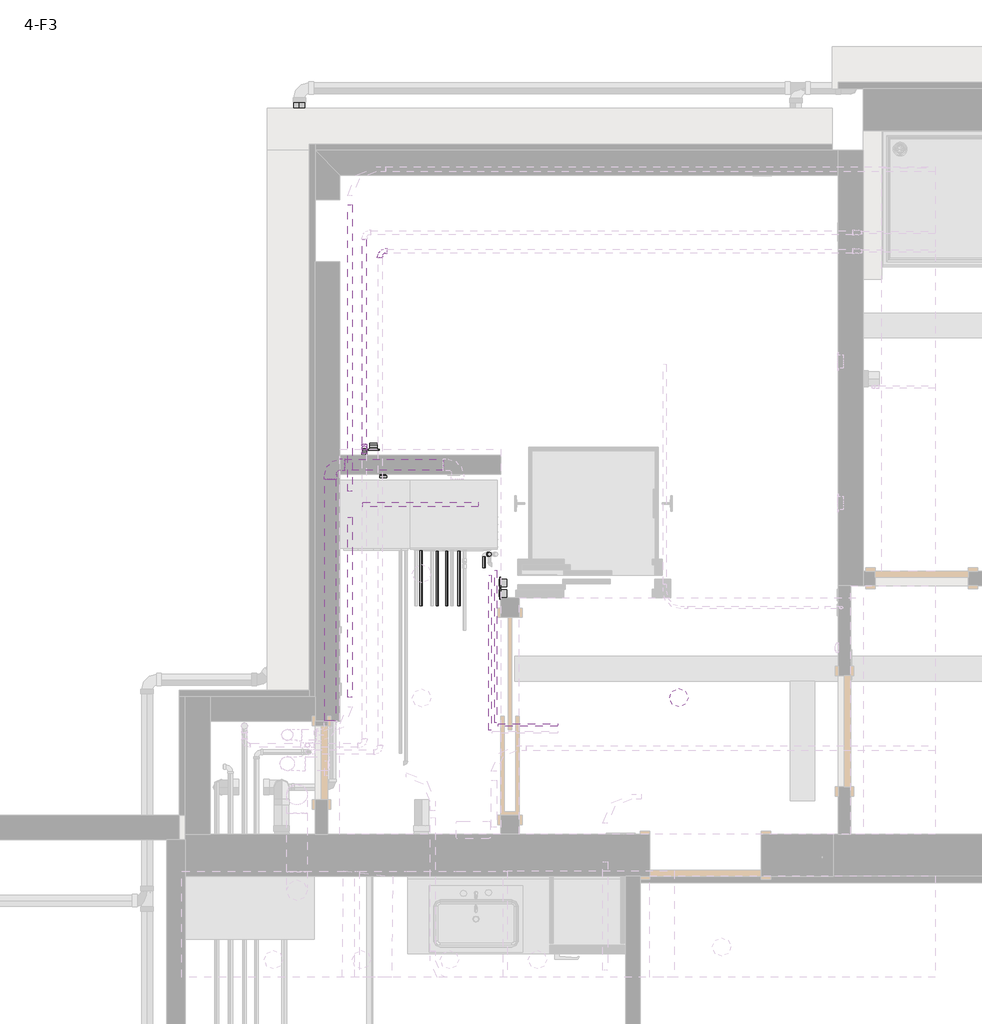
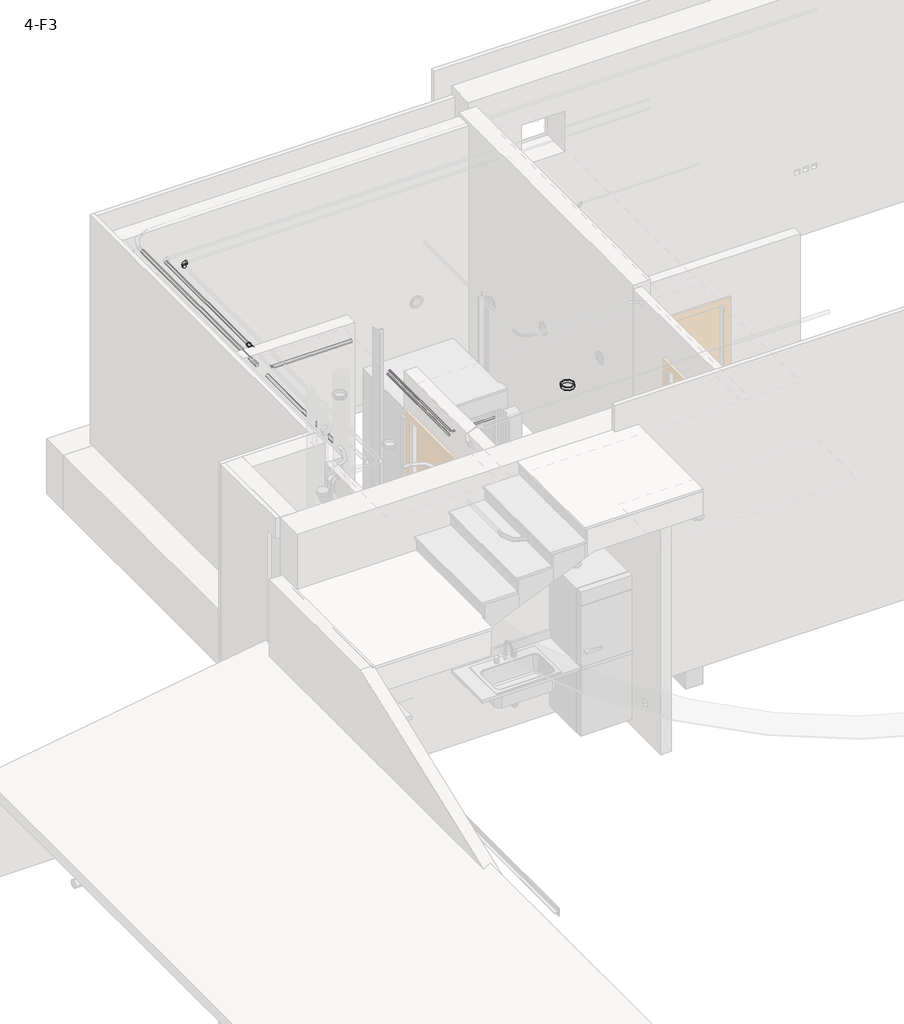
# One storey, part 8 of 11: 27 pipe segments, 22 pipe fittings, 3 cable carrier segments, 2 switching devices, 1 light fixture, 1 proxy.
"""IFC4 building model written with IfcOpenShell, lengths in millimetres."""

from ifc_helpers import new_model, si_unit, point, frame, frame_2d, origin, place, context, project, spatial, circle_curve, trimmed, segment, composite_curve, outline, extrude, transform, mapped, element, save
from components import wall_mounted_socket_ups_wall_mounted_socket_ups_4524048d, m_downlight_recessed_can_152mm_incandescent_120v_1ee42939, m_bend_pvc_sch_40_dwv_standard_a4b99d37, m_bend_pvc_sch_40_dwv_standard_738aab8b, m_bend_pvc_sch_40_dwv_standard_b153bf5a, m_elbow_welded_generic_standard_d2a14586, m_elbow_welded_generic_standard_c3fc6815, m_elbow_welded_generic_standard_820a065a, m_elbow_welded_generic_standard_7d9b37db, m_elbow_welded_generic_standard_7a51b9d3, m_reducer_pvc_sch_40_dwv_standard_054c0fc6, m_tee_reducing_sanitary_pvc_sch_40_dwv_standard_235fb988, switching_device_ab05ab5c

model = new_model("IFC4")

# Units and contexts
model_context = context("Model", 3, world=origin())
ifc_project = project(units=[si_unit("LENGTHUNIT", "METRE", prefix="MILLI")], contexts=[model_context])

# Site, building, storey
site = spatial("IfcSite", under=ifc_project)
building = spatial("IfcBuilding", under=site)
storey = spatial("IfcBuildingStorey", under=building, Name="4-F3", Elevation=9900.0)

# Proxy
placement = place(None, origin())
wall_mounted_socket_ups_wall_mounted_socket_ups_shape = wall_mounted_socket_ups_wall_mounted_socket_ups_4524048d(model_context)
element("IfcBuildingElementProxy", 1, Name="WALL MOUNTED SOCKET : WALL MOUNTED SOCKET", ObjectType="WALL MOUNTED SOCKET : WALL MOUNTED SOCKET", at=placement, inside=storey, context=model_context, shape_type="MappedRepresentation", body=[
    mapped(wall_mounted_socket_ups_wall_mounted_socket_ups_shape, transform((-4587.4765921, 6284.4560655, 10350.0), x_axis=(1.0, 0.0, 0.0), y_axis=(0.0, 0.0, 1.0), z_axis=(0.0, -1.0, 0.0))),
])

# Cable carrier segments
element("IfcCableCarrierSegment", 2, ObjectType="Low Current", at=placement, inside=storey, context=model_context, shape_type="SweptSolid", body=[
    extrude(outline(composite_curve([segment(trimmed(circle_curve(frame_2d((12880.825, -4777.4765921)), 19.175), [point((12880.825, -4758.3015921))], [point((12900.0, -4777.4765921))], False, "CARTESIAN"), True, "CONTINUOUS"), segment(trimmed(circle_curve(frame_2d((12880.825, -4777.4765921)), 19.175), [point((12900.0, -4777.4765921))], [point((12880.825, -4796.6515921))], False, "CARTESIAN"), True, "CONTINUOUS"), segment(trimmed(circle_curve(frame_2d((12880.825, -4777.4765921)), 19.175), [point((12880.825, -4796.6515921))], [point((12861.65, -4777.4765921))], False, "CARTESIAN"), True, "CONTINUOUS"), segment(trimmed(circle_curve(frame_2d((12880.825, -4777.4765921)), 19.175), [point((12861.65, -4777.4765921))], [point((12880.825, -4758.3015921))], False, "CARTESIAN"), True, "CONTINUOUS")], self_intersect=False)), frame((0.0, 5943.3903503, 0.0), z_axis=(0.0, 1.0, 0.0), x_axis=(0.0, 0.0, 1.0)), (0.0, 0.0, 1.0), 2316.9419496),
])
element("IfcCableCarrierSegment", 3, ObjectType="Low Current", at=placement, inside=storey, context=model_context, shape_type="SweptSolid", body=[
    extrude(outline(composite_curve([segment(trimmed(circle_curve(frame_2d((0.0, -19.175)), 19.175), [point((-19.175, -19.175))], [point((0.0, 0.0))], False, "CARTESIAN"), True, "CONTINUOUS"), segment(trimmed(circle_curve(frame_2d((0.0, -19.175)), 19.175), [point((0.0, 0.0))], [point((19.175, -19.175))], False, "CARTESIAN"), True, "CONTINUOUS"), segment(trimmed(circle_curve(frame_2d((0.0, -19.175)), 19.175), [point((19.175, -19.175))], [point((0.0, -38.35))], False, "CARTESIAN"), True, "CONTINUOUS"), segment(trimmed(circle_curve(frame_2d((0.0, -19.175)), 19.175), [point((0.0, -38.35))], [point((-19.175, -19.175))], False, "CARTESIAN"), True, "CONTINUOUS")], self_intersect=False)), frame((-3737.4771048, 5838.3903503, 12861.625), z_axis=(-0.9999999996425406, 0.0, 2.6737967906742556e-05), x_axis=(0.0, 1.0, 0.0)), (0.0, 0.0, 1.0), 935.0000003),
])
element("IfcCableCarrierSegment", 4, ObjectType="Low Current", at=placement, inside=storey, context=model_context, shape_type="SweptSolid", body=[
    extrude(outline(composite_curve([segment(trimmed(circle_curve(frame_2d((12880.825, -4777.4765921)), 19.175), [point((12880.825, -4758.3015921))], [point((12900.0, -4777.4765921))], False, "CARTESIAN"), True, "CONTINUOUS"), segment(trimmed(circle_curve(frame_2d((12880.825, -4777.4765921)), 19.175), [point((12900.0, -4777.4765921))], [point((12880.825, -4796.6515921))], False, "CARTESIAN"), True, "CONTINUOUS"), segment(trimmed(circle_curve(frame_2d((12880.825, -4777.4765921)), 19.175), [point((12880.825, -4796.6515921))], [point((12861.65, -4777.4765921))], False, "CARTESIAN"), True, "CONTINUOUS"), segment(trimmed(circle_curve(frame_2d((12880.825, -4777.4765921)), 19.175), [point((12861.65, -4777.4765921))], [point((12880.825, -4758.3015921))], False, "CARTESIAN"), True, "CONTINUOUS")], self_intersect=False)), frame((0.0, 4278.1822999, 0.0), z_axis=(0.0, 1.0, 0.0), x_axis=(0.0, 0.0, 1.0)), (0.0, 0.0, 1.0), 1455.2080504),
])

# Light fixture
m_downlight_recessed_can_152mm_incandescent_120v_shape = m_downlight_recessed_can_152mm_incandescent_120v_1ee42939(model_context)
element("IfcLightFixture", 5, ObjectType="M_Downlight - Recessed Can : 203mm Incandescent - 277V", at=placement, inside=storey, context=model_context, shape_type="MappedRepresentation", body=[
    mapped(m_downlight_recessed_can_152mm_incandescent_120v_shape, transform((-2117.4765921, 4275.4711943, 10185.4), x_axis=(1.0, 0.0, 0.0), y_axis=(0.0, 1.0, 0.0), z_axis=(0.0, 0.0, 1.0))),
])

# Pipe fittings
m_bend_pvc_sch_40_dwv_standard_shape = m_bend_pvc_sch_40_dwv_standard_a4b99d37(model_context)
element("IfcPipeFitting", 6, ObjectType="M_Bend - PVC - Sch 40 - DWV : Standard", at=placement, inside=storey, context=model_context, shape_type="MappedRepresentation", body=[
    mapped(m_bend_pvc_sch_40_dwv_standard_shape, transform((-4935.0, 6159.4560655, 11700.0), x_axis=(-1.0, 0.0, 0.0), y_axis=(0.0, -1.0, 0.0), z_axis=(0.0, 0.0, 1.0))),
])
m_bend_pvc_sch_40_dwv_standard_2_shape = m_bend_pvc_sch_40_dwv_standard_738aab8b(model_context)
element("IfcPipeFitting", 7, ObjectType="M_Bend - PVC - Sch 40 - DWV : Standard", at=placement, inside=storey, context=model_context, shape_type="MappedRepresentation", body=[
    mapped(m_bend_pvc_sch_40_dwv_standard_2_shape, transform((-4506.4958632, 6114.440242, 10350.0), x_axis=(1.0, 0.0, 0.0), y_axis=(0.0, -1.0, 0.0), z_axis=(0.0, 0.0, -1.0))),
])
element("IfcPipeFitting", 8, ObjectType="M_Bend - PVC - Sch 40 - DWV : Standard", at=placement, inside=storey, context=model_context, shape_type="MappedRepresentation", body=[
    mapped(m_bend_pvc_sch_40_dwv_standard_2_shape, transform((-4917.4765921, 6114.440242, 10350.0), x_axis=(-1.0, 0.0, 0.0), y_axis=(0.0, -1.0, 0.0), z_axis=(0.0, 0.0, 1.0))),
])
m_bend_pvc_sch_40_dwv_standard_3_shape = m_bend_pvc_sch_40_dwv_standard_b153bf5a(model_context)
element("IfcPipeFitting", 9, ObjectType="M_Bend - PVC - Sch 40 - DWV : Standard", at=placement, inside=storey, context=model_context, shape_type="MappedRepresentation", body=[
    mapped(m_bend_pvc_sch_40_dwv_standard_3_shape, transform((-4532.9770075, 7886.6620874, 12870.0), x_axis=(-1.0, 0.0, 0.0), y_axis=(0.0, -1.0, 0.0), z_axis=(0.0, 0.0, 1.0))),
])
element("IfcPipeFitting", 10, ObjectType="M_Bend - PVC - Sch 40 - DWV : Standard", at=placement, inside=storey, context=model_context, shape_type="MappedRepresentation", body=[
    mapped(m_bend_pvc_sch_40_dwv_standard_3_shape, transform((-4660.1213464, 6295.3100986, 11100.0), x_axis=(0.0, 0.0, -1.0), y_axis=(0.0, -1.0, 0.0), z_axis=(-1.0, 0.0, 0.0))),
])
m_elbow_welded_generic_standard_shape = m_elbow_welded_generic_standard_d2a14586(model_context)
element("IfcPipeFitting", 11, ObjectType="M_Elbow - Welded - Generic : Standard", at=placement, inside=storey, context=model_context, shape_type="MappedRepresentation", body=[
    mapped(m_elbow_welded_generic_standard_shape, transform((-3993.7873274, 5555.4611712, 9540.0000278), x_axis=(-1.0, 0.0, 0.0), y_axis=(0.0, -0.9999999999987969, -1.551235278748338e-06), z_axis=(0.0, -1.551235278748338e-06, 0.9999999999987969))),
])
element("IfcPipeFitting", 12, ObjectType="M_Elbow - Welded - Generic : Standard", at=placement, inside=storey, context=model_context, shape_type="MappedRepresentation", body=[
    mapped(m_elbow_welded_generic_standard_shape, transform((-3646.9732649, 5495.4611712, 9540.000026), x_axis=(1.0, 0.0, 0.0), y_axis=(0.0, 0.0, 1.0), z_axis=(0.0, -1.0, 0.0))),
])
element("IfcPipeFitting", 13, ObjectType="M_Elbow - Welded - Generic : Standard", at=placement, inside=storey, context=model_context, shape_type="MappedRepresentation", body=[
    mapped(m_elbow_welded_generic_standard_shape, transform((-3646.9732649, 5435.4613499, 11050.0000278), x_axis=(1.0, 0.0, 0.0), y_axis=(0.0, -1.195710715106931e-07, 0.9999999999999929), z_axis=(0.0, -0.9999999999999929, -1.195710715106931e-07))),
])
element("IfcPipeFitting", 14, ObjectType="M_Elbow - Welded - Generic : Standard", at=placement, inside=storey, context=model_context, shape_type="MappedRepresentation", body=[
    mapped(m_elbow_welded_generic_standard_shape, transform((-3646.9732649, 5555.4611712, 9540.0000278), x_axis=(1.0, 0.0, 0.0), y_axis=(0.0, 0.0, 1.0), z_axis=(0.0, -1.0, 0.0))),
])
element("IfcPipeFitting", 15, ObjectType="M_Elbow - Welded - Generic : Standard", at=placement, inside=storey, context=model_context, shape_type="MappedRepresentation", body=[
    mapped(m_elbow_welded_generic_standard_shape, transform((-3646.9732649, 5735.4611712, 9540.0000553), x_axis=(1.0, 0.0, 0.0), y_axis=(0.0, 0.0, 1.0), z_axis=(0.0, -1.0, 0.0))),
])
element("IfcPipeFitting", 16, ObjectType="M_Elbow - Welded - Generic : Standard", at=placement, inside=storey, context=model_context, shape_type="MappedRepresentation", body=[
    mapped(m_elbow_welded_generic_standard_shape, transform((-3646.9732649, 5675.4611712, 9540.0000233), x_axis=(1.0, 0.0, 0.0), y_axis=(0.0, 0.0, 1.0), z_axis=(0.0, -1.0, 0.0))),
])
element("IfcPipeFitting", 17, ObjectType="M_Elbow - Welded - Generic : Standard", at=placement, inside=storey, context=model_context, shape_type="MappedRepresentation", body=[
    mapped(m_elbow_welded_generic_standard_shape, transform((-3646.9732649, 5615.4611712, 9540.0000247), x_axis=(1.0, 0.0, 0.0), y_axis=(0.0, 0.0, 1.0), z_axis=(0.0, -1.0, 0.0))),
])
element("IfcPipeFitting", 18, ObjectType="M_Elbow - Welded - Generic : Standard", at=placement, inside=storey, context=model_context, shape_type="MappedRepresentation", body=[
    mapped(m_elbow_welded_generic_standard_shape, transform((-4366.9732649, 5735.4611712, 9540.0000553), x_axis=(-1.0, 0.0, 0.0), y_axis=(0.0, -0.9999999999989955, -1.4174412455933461e-06), z_axis=(0.0, -1.4174412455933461e-06, 0.9999999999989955))),
])
m_elbow_welded_generic_standard_2_shape = m_elbow_welded_generic_standard_c3fc6815(model_context)
element("IfcPipeFitting", 19, ObjectType="M_Elbow - Welded - Generic : Standard", at=placement, inside=storey, context=model_context, shape_type="MappedRepresentation", body=[
    mapped(m_elbow_welded_generic_standard_2_shape, transform((-4070.8446087, 5615.4611712, 9500.000112), x_axis=(-1.0, 0.0, 0.0), y_axis=(0.0, -0.9999999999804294, -6.256292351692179e-06), z_axis=(0.0, -6.256292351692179e-06, 0.9999999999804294))),
])
m_elbow_welded_generic_standard_3_shape = m_elbow_welded_generic_standard_820a065a(model_context)
element("IfcPipeFitting", 20, ObjectType="M_Elbow - Welded - Generic : Standard", at=placement, inside=storey, context=model_context, shape_type="MappedRepresentation", body=[
    mapped(m_elbow_welded_generic_standard_3_shape, transform((-4324.0305462, 5865.461819, 9499.9997852), x_axis=(0.0, -0.9999999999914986, -4.123465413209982e-06), y_axis=(0.0, -4.123465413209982e-06, 0.9999999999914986), z_axis=(-1.0, 0.0, 0.0))),
])
m_elbow_welded_generic_standard_4_shape = m_elbow_welded_generic_standard_7d9b37db(model_context)
element("IfcPipeFitting", 21, ObjectType="M_Elbow - Welded - Generic : Standard", at=placement, inside=storey, context=model_context, shape_type="MappedRepresentation", body=[
    mapped(m_elbow_welded_generic_standard_4_shape, transform((-4324.0305462, 5825.4616042, 9540.0), x_axis=(0.0, -0.7071067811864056, 0.7071067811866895), y_axis=(0.0, -0.7071067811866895, -0.7071067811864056), z_axis=(1.0, 0.0, 0.0))),
])
element("IfcPipeFitting", 22, ObjectType="M_Elbow - Welded - Generic : Standard", at=placement, inside=storey, context=model_context, shape_type="MappedRepresentation", body=[
    mapped(m_elbow_welded_generic_standard_4_shape, transform((-4200.8446087, 5735.4611712, 9540.0), x_axis=(0.0, -0.7071067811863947, 0.7071067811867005), y_axis=(0.0, -0.7071067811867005, -0.7071067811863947), z_axis=(1.0, 0.0, 0.0))),
])
element("IfcPipeFitting", 23, ObjectType="M_Elbow - Welded - Generic : Standard", at=placement, inside=storey, context=model_context, shape_type="MappedRepresentation", body=[
    mapped(m_elbow_welded_generic_standard_4_shape, transform((-4070.8446087, 5675.4611712, 9540.0), x_axis=(0.0, -0.7071067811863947, 0.7071067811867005), y_axis=(0.0, -0.7071067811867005, -0.7071067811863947), z_axis=(1.0, 0.0, 0.0))),
])
m_elbow_welded_generic_standard_5_shape = m_elbow_welded_generic_standard_7a51b9d3(model_context)
element("IfcPipeFitting", 24, ObjectType="M_Elbow - Welded - Generic : Standard", at=placement, inside=storey, context=model_context, shape_type="MappedRepresentation", body=[
    mapped(m_elbow_welded_generic_standard_5_shape, transform((-4200.8446087, 5775.4616848, 9499.9994864), x_axis=(0.0, -0.9999999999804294, -6.25629233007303e-06), y_axis=(0.0, -6.25629233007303e-06, 0.9999999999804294), z_axis=(-1.0, 0.0, 0.0))),
])
element("IfcPipeFitting", 25, ObjectType="M_Elbow - Welded - Generic : Standard", at=placement, inside=storey, context=model_context, shape_type="MappedRepresentation", body=[
    mapped(m_elbow_welded_generic_standard_5_shape, transform((-4070.8446087, 5715.4616848, 9499.9994864), x_axis=(0.0, -0.9999999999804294, -6.25629233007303e-06), y_axis=(0.0, -6.25629233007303e-06, 0.9999999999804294), z_axis=(-1.0, 0.0, 0.0))),
])
m_reducer_pvc_sch_40_dwv_standard_shape = m_reducer_pvc_sch_40_dwv_standard_054c0fc6(model_context)
element("IfcPipeFitting", 26, ObjectType="M_Reducer - PVC - Sch 40 - DWV : Standard", at=placement, inside=storey, context=model_context, shape_type="MappedRepresentation", body=[
    mapped(m_reducer_pvc_sch_40_dwv_standard_shape, transform((-4366.9732649, 5717.5184524, 9540.0000299), x_axis=(0.0, -0.9999999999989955, -1.4174412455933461e-06), y_axis=(1.0, 0.0, 0.0), z_axis=(0.0, -1.4174412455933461e-06, 0.9999999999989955))),
])
m_tee_reducing_sanitary_pvc_sch_40_dwv_standard_shape = m_tee_reducing_sanitary_pvc_sch_40_dwv_standard_235fb988(model_context)
element("IfcPipeFitting", 27, ObjectType="M_Tee Reducing Sanitary - PVC - Sch 40 - DWV : Standard", at=placement, inside=storey, context=model_context, shape_type="MappedRepresentation", body=[
    mapped(m_tee_reducing_sanitary_pvc_sch_40_dwv_standard_shape, transform((-4660.1213464, 6295.3100986, 12870.0), x_axis=(0.0, 1.0, 0.0), y_axis=(0.0, 0.0, 1.0), z_axis=(1.0, 0.0, 0.0))),
])

# Pipe segments
element("IfcPipeSegment", 28, ObjectType="PVC - DWV", at=placement, inside=storey, context=model_context, shape_type="SweptSolid", body=[
    extrude(outline(composite_curve([segment(trimmed(circle_curve(frame_2d((5675.4611712, 9540.0000233)), 9.525), [point((5684.9861712, 9540.0000233))], [point((5675.4611712, 9530.4750233))], False, "CARTESIAN"), True, "CONTINUOUS"), segment(trimmed(circle_curve(frame_2d((5675.4611712, 9540.0000233)), 9.525), [point((5675.4611712, 9530.4750233))], [point((5665.9361712, 9540.0000233))], False, "CARTESIAN"), True, "CONTINUOUS"), segment(trimmed(circle_curve(frame_2d((5675.4611712, 9540.0000233)), 9.525), [point((5665.9361712, 9540.0000233))], [point((5675.4611712, 9549.5250233))], False, "CARTESIAN"), True, "CONTINUOUS"), segment(trimmed(circle_curve(frame_2d((5675.4611712, 9540.0000233)), 9.525), [point((5675.4611712, 9549.5250233))], [point((5684.9861712, 9540.0000233))], False, "CARTESIAN"), True, "CONTINUOUS")], self_intersect=False)), frame((-4225.8446087, 0.0, 0.0), z_axis=(1.0, 0.0, 0.0), x_axis=(0.0, 1.0, 0.0)), (0.0, 0.0, 1.0), 560.928625),
])
element("IfcPipeSegment", 29, ObjectType="PVC - DWV", at=placement, inside=storey, context=model_context, shape_type="SweptSolid", body=[
    extrude(outline(composite_curve([segment(trimmed(circle_curve(frame_2d((5615.4611712, 9540.0000247)), 9.525), [point((5624.9861712, 9540.0000247))], [point((5615.4611712, 9530.4750247))], False, "CARTESIAN"), True, "CONTINUOUS"), segment(trimmed(circle_curve(frame_2d((5615.4611712, 9540.0000247)), 9.525), [point((5615.4611712, 9530.4750247))], [point((5605.9361712, 9540.0000247))], False, "CARTESIAN"), True, "CONTINUOUS"), segment(trimmed(circle_curve(frame_2d((5615.4611712, 9540.0000247)), 9.525), [point((5605.9361712, 9540.0000247))], [point((5615.4611712, 9549.5250247))], False, "CARTESIAN"), True, "CONTINUOUS"), segment(trimmed(circle_curve(frame_2d((5615.4611712, 9540.0000247)), 9.525), [point((5615.4611712, 9549.5250247))], [point((5624.9861712, 9540.0000247))], False, "CARTESIAN"), True, "CONTINUOUS")], self_intersect=False)), frame((-4095.8446087, 0.0, 0.0), z_axis=(1.0, 0.0, 0.0), x_axis=(0.0, 1.0, 0.0)), (0.0, 0.0, 1.0), 430.928625),
])
element("IfcPipeSegment", 30, ObjectType="PVC - DWV", at=placement, inside=storey, context=model_context, shape_type="SweptSolid", body=[
    extrude(outline(composite_curve([segment(trimmed(circle_curve(frame_2d((5555.4611712, 9540.0000278)), 9.525), [point((5564.9861712, 9540.0000278))], [point((5555.4611712, 9530.4750278))], False, "CARTESIAN"), True, "CONTINUOUS"), segment(trimmed(circle_curve(frame_2d((5555.4611712, 9540.0000278)), 9.525), [point((5555.4611712, 9530.4750278))], [point((5545.9361712, 9540.0000278))], False, "CARTESIAN"), True, "CONTINUOUS"), segment(trimmed(circle_curve(frame_2d((5555.4611712, 9540.0000278)), 9.525), [point((5545.9361712, 9540.0000278))], [point((5555.4611712, 9549.5250278))], False, "CARTESIAN"), True, "CONTINUOUS"), segment(trimmed(circle_curve(frame_2d((5555.4611712, 9540.0000278)), 9.525), [point((5555.4611712, 9549.5250278))], [point((5564.9861712, 9540.0000278))], False, "CARTESIAN"), True, "CONTINUOUS")], self_intersect=False)), frame((-3975.8446087, 0.0, 0.0), z_axis=(1.0, 0.0, 0.0), x_axis=(0.0, 1.0, 0.0)), (0.0, 0.0, 1.0), 310.928625),
])
element("IfcPipeSegment", 31, ObjectType="PVC - DWV", at=placement, inside=storey, context=model_context, shape_type="SweptSolid", body=[
    extrude(outline(composite_curve([segment(trimmed(circle_curve(frame_2d((5495.4611712, 9540.000026)), 9.525), [point((5504.9861712, 9540.000026))], [point((5495.4611712, 9530.475026))], False, "CARTESIAN"), True, "CONTINUOUS"), segment(trimmed(circle_curve(frame_2d((5495.4611712, 9540.000026)), 9.525), [point((5495.4611712, 9530.475026))], [point((5485.9361712, 9540.000026))], False, "CARTESIAN"), True, "CONTINUOUS"), segment(trimmed(circle_curve(frame_2d((5495.4611712, 9540.000026)), 9.525), [point((5485.9361712, 9540.000026))], [point((5495.4611712, 9549.525026))], False, "CARTESIAN"), True, "CONTINUOUS"), segment(trimmed(circle_curve(frame_2d((5495.4611712, 9540.000026)), 9.525), [point((5495.4611712, 9549.525026))], [point((5504.9861712, 9540.000026))], False, "CARTESIAN"), True, "CONTINUOUS")], self_intersect=False)), frame((-3875.8446087, 0.0, 0.0), z_axis=(1.0, 0.0, 0.0), x_axis=(0.0, 1.0, 0.0)), (0.0, 0.0, 1.0), 210.928625),
])
element("IfcPipeSegment", 32, ObjectType="PVC - DWV", at=placement, inside=storey, context=model_context, shape_type="SweptSolid", body=[
    extrude(outline(composite_curve([segment(trimmed(circle_curve(frame_2d((5435.4613499, 11050.0000278)), 9.55), [point((5445.0113499, 11050.0000278))], [point((5435.4613499, 11040.4500278))], False, "CARTESIAN"), True, "CONTINUOUS"), segment(trimmed(circle_curve(frame_2d((5435.4613499, 11050.0000278)), 9.55), [point((5435.4613499, 11040.4500278))], [point((5425.9113499, 11050.0000278))], False, "CARTESIAN"), True, "CONTINUOUS"), segment(trimmed(circle_curve(frame_2d((5435.4613499, 11050.0000278)), 9.55), [point((5425.9113499, 11050.0000278))], [point((5435.4613499, 11059.5500278))], False, "CARTESIAN"), True, "CONTINUOUS"), segment(trimmed(circle_curve(frame_2d((5435.4613499, 11050.0000278)), 9.55), [point((5435.4613499, 11059.5500278))], [point((5445.0113499, 11050.0000278))], False, "CARTESIAN"), True, "CONTINUOUS")], self_intersect=False)), frame((-3674.5676078, 0.0, 0.0), z_axis=(1.0, 0.0, 0.0), x_axis=(0.0, 1.0, 0.0)), (0.0, 0.0, 1.0), 9.6516241),
])
element("IfcPipeSegment", 33, ObjectType="PVC - DWV", at=placement, inside=storey, context=model_context, shape_type="SweptSolid", body=[
    extrude(outline(composite_curve([segment(trimmed(circle_curve(frame_2d((9540.0, -3993.7873274)), 9.525), [point((9540.0, -4003.3123274))], [point((9530.475, -3993.7873274))], False, "CARTESIAN"), True, "CONTINUOUS"), segment(trimmed(circle_curve(frame_2d((9540.0, -3993.7873274)), 9.525), [point((9530.475, -3993.7873274))], [point((9540.0, -3984.2623274))], False, "CARTESIAN"), True, "CONTINUOUS"), segment(trimmed(circle_curve(frame_2d((9540.0, -3993.7873274)), 9.525), [point((9540.0, -3984.2623274))], [point((9549.525, -3993.7873274))], False, "CARTESIAN"), True, "CONTINUOUS"), segment(trimmed(circle_curve(frame_2d((9540.0, -3993.7873274)), 9.525), [point((9549.525, -3993.7873274))], [point((9540.0, -4003.3123274))], False, "CARTESIAN"), True, "CONTINUOUS")], self_intersect=False)), frame((0.0, 5019.4611712, 0.0), z_axis=(0.0, 1.0, 0.0), x_axis=(0.0, 0.0, 1.0)), (0.0, 0.0, 1.0), 518.0572812),
])
element("IfcPipeSegment", 34, ObjectType="PVC - DWV", at=placement, inside=storey, context=model_context, shape_type="SweptSolid", body=[
    extrude(outline(composite_curve([segment(trimmed(circle_curve(frame_2d((9540.0, -3893.7873274)), 9.525), [point((9540.0, -3903.3123274))], [point((9530.475, -3893.7873274))], False, "CARTESIAN"), True, "CONTINUOUS"), segment(trimmed(circle_curve(frame_2d((9540.0, -3893.7873274)), 9.525), [point((9530.475, -3893.7873274))], [point((9540.0, -3884.2623274))], False, "CARTESIAN"), True, "CONTINUOUS"), segment(trimmed(circle_curve(frame_2d((9540.0, -3893.7873274)), 9.525), [point((9540.0, -3884.2623274))], [point((9549.525, -3893.7873274))], False, "CARTESIAN"), True, "CONTINUOUS"), segment(trimmed(circle_curve(frame_2d((9540.0, -3893.7873274)), 9.525), [point((9549.525, -3893.7873274))], [point((9540.0, -3903.3123274))], False, "CARTESIAN"), True, "CONTINUOUS")], self_intersect=False)), frame((0.0, 5019.4611712, 0.0), z_axis=(0.0, 1.0, 0.0), x_axis=(0.0, 0.0, 1.0)), (0.0, 0.0, 1.0), 458.0572813),
])
element("IfcPipeSegment", 35, ObjectType="PVC - DWV", at=placement, inside=storey, context=model_context, shape_type="SweptSolid", body=[
    extrude(outline(composite_curve([segment(trimmed(circle_curve(frame_2d((0.0, -9.55)), 9.55), [point((0.0, 0.0))], [point((9.55, -9.55))], False, "CARTESIAN"), True, "CONTINUOUS"), segment(trimmed(circle_curve(frame_2d((0.0, -9.55)), 9.55), [point((9.55, -9.55))], [point((0.0, -19.1))], False, "CARTESIAN"), True, "CONTINUOUS"), segment(trimmed(circle_curve(frame_2d((0.0, -9.55)), 9.55), [point((0.0, -19.1))], [point((-9.55, -9.55))], False, "CARTESIAN"), True, "CONTINUOUS"), segment(trimmed(circle_curve(frame_2d((0.0, -9.55)), 9.55), [point((-9.55, -9.55))], [point((0.0, 0.0))], False, "CARTESIAN"), True, "CONTINUOUS")], self_intersect=False)), frame((-3702.0265921, 5328.3703343, 11050.0), z_axis=(1.1565701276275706e-11, 1.0, 0.0), x_axis=(0.0, 0.0, -1.0)), (0.0, 0.0, 1.0), 89.1820312),
])
element("IfcPipeSegment", 36, ObjectType="PVC - DWV", at=placement, inside=storey, context=model_context, shape_type="SweptSolid", body=[
    extrude(outline(composite_curve([segment(trimmed(circle_curve(frame_2d((5735.4611712, 9500.0000738)), 9.55), [point((5745.0111712, 9500.0000738))], [point((5735.4611712, 9490.4500738))], False, "CARTESIAN"), True, "CONTINUOUS"), segment(trimmed(circle_curve(frame_2d((5735.4611712, 9500.0000738)), 9.55), [point((5735.4611712, 9490.4500738))], [point((5725.9111712, 9500.0000738))], False, "CARTESIAN"), True, "CONTINUOUS"), segment(trimmed(circle_curve(frame_2d((5735.4611712, 9500.0000738)), 9.55), [point((5725.9111712, 9500.0000738))], [point((5735.4611712, 9509.5500738))], False, "CARTESIAN"), True, "CONTINUOUS"), segment(trimmed(circle_curve(frame_2d((5735.4611712, 9500.0000738)), 9.55), [point((5735.4611712, 9509.5500738))], [point((5745.0111712, 9500.0000738))], False, "CARTESIAN"), True, "CONTINUOUS")], self_intersect=False)), frame((-4306.1215618, 0.0, 0.0), z_axis=(1.0, 0.0, 0.0), x_axis=(0.0, 1.0, 0.0)), (0.0, 0.0, 1.0), 693.2393125),
])
element("IfcPipeSegment", 37, ObjectType="PVC - DWV", at=placement, inside=storey, context=model_context, shape_type="SweptSolid", body=[
    extrude(outline(composite_curve([segment(trimmed(circle_curve(frame_2d((5675.4611712, 9500.000112)), 9.55), [point((5685.0111712, 9500.000112))], [point((5675.4611712, 9490.450112))], False, "CARTESIAN"), True, "CONTINUOUS"), segment(trimmed(circle_curve(frame_2d((5675.4611712, 9500.000112)), 9.55), [point((5675.4611712, 9490.450112))], [point((5665.9111712, 9500.000112))], False, "CARTESIAN"), True, "CONTINUOUS"), segment(trimmed(circle_curve(frame_2d((5675.4611712, 9500.000112)), 9.55), [point((5665.9111712, 9500.000112))], [point((5675.4611712, 9509.550112))], False, "CARTESIAN"), True, "CONTINUOUS"), segment(trimmed(circle_curve(frame_2d((5675.4611712, 9500.000112)), 9.55), [point((5675.4611712, 9509.550112))], [point((5685.0111712, 9500.000112))], False, "CARTESIAN"), True, "CONTINUOUS")], self_intersect=False)), frame((-4182.9356243, 0.0, 0.0), z_axis=(1.0, 0.0, 0.0), x_axis=(0.0, 1.0, 0.0)), (0.0, 0.0, 1.0), 570.053375),
])
element("IfcPipeSegment", 38, ObjectType="PVC - DWV", at=placement, inside=storey, context=model_context, shape_type="SweptSolid", body=[
    extrude(outline(composite_curve([segment(trimmed(circle_curve(frame_2d((5615.4611712, 9500.000112)), 9.55), [point((5625.0111712, 9500.000112))], [point((5615.4611712, 9490.450112))], False, "CARTESIAN"), True, "CONTINUOUS"), segment(trimmed(circle_curve(frame_2d((5615.4611712, 9500.000112)), 9.55), [point((5615.4611712, 9490.450112))], [point((5605.9111712, 9500.000112))], False, "CARTESIAN"), True, "CONTINUOUS"), segment(trimmed(circle_curve(frame_2d((5615.4611712, 9500.000112)), 9.55), [point((5605.9111712, 9500.000112))], [point((5615.4611712, 9509.550112))], False, "CARTESIAN"), True, "CONTINUOUS"), segment(trimmed(circle_curve(frame_2d((5615.4611712, 9500.000112)), 9.55), [point((5615.4611712, 9509.550112))], [point((5625.0111712, 9500.000112))], False, "CARTESIAN"), True, "CONTINUOUS")], self_intersect=False)), frame((-4052.9356243, 0.0, 0.0), z_axis=(1.0, 0.0, 0.0), x_axis=(0.0, 1.0, 0.0)), (0.0, 0.0, 1.0), 440.053375),
])
element("IfcPipeSegment", 39, ObjectType="PVC - DWV", at=placement, inside=storey, context=model_context, shape_type="SweptSolid", body=[
    extrude(outline(composite_curve([segment(trimmed(circle_curve(frame_2d((5555.4611712, 9500.0001048)), 9.55), [point((5565.0111712, 9500.0001048))], [point((5555.4611712, 9490.4501048))], False, "CARTESIAN"), True, "CONTINUOUS"), segment(trimmed(circle_curve(frame_2d((5555.4611712, 9500.0001048)), 9.55), [point((5555.4611712, 9490.4501048))], [point((5545.9111712, 9500.0001048))], False, "CARTESIAN"), True, "CONTINUOUS"), segment(trimmed(circle_curve(frame_2d((5555.4611712, 9500.0001048)), 9.55), [point((5545.9111712, 9500.0001048))], [point((5555.4611712, 9509.5501048))], False, "CARTESIAN"), True, "CONTINUOUS"), segment(trimmed(circle_curve(frame_2d((5555.4611712, 9500.0001048)), 9.55), [point((5555.4611712, 9509.5501048))], [point((5565.0111712, 9500.0001048))], False, "CARTESIAN"), True, "CONTINUOUS")], self_intersect=False)), frame((-3932.9356243, 0.0, 0.0), z_axis=(1.0, 0.0, 0.0), x_axis=(0.0, 1.0, 0.0)), (0.0, 0.0, 1.0), 320.053375),
])
element("IfcPipeSegment", 40, ObjectType="PVC - DWV", at=placement, inside=storey, context=model_context, shape_type="SweptSolid", body=[
    extrude(outline(composite_curve([segment(trimmed(circle_curve(frame_2d((0.0, 9.5500001)), 9.55), [point((-9.55, 9.5500001))], [point((0.0, 19.1))], False, "CARTESIAN"), True, "CONTINUOUS"), segment(trimmed(circle_curve(frame_2d((0.0, 9.5500001)), 9.55), [point((0.0, 19.1))], [point((9.55, 9.5500001))], False, "CARTESIAN"), True, "CONTINUOUS"), segment(trimmed(circle_curve(frame_2d((0.0, 9.5500001)), 9.55), [point((9.55, 9.5500001))], [point((0.0, 0.0))], False, "CARTESIAN"), True, "CONTINUOUS"), segment(trimmed(circle_curve(frame_2d((0.0, 9.5500001)), 9.55), [point((0.0, 0.0))], [point((-9.55, 9.5500001))], False, "CARTESIAN"), True, "CONTINUOUS")], self_intersect=False)), frame((-4324.0305462, 5846.0575935, 9505.8982711), z_axis=(0.0, -0.70710678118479, 0.7071067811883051), x_axis=(1.0, 0.0, 0.0)), (0.0, 0.0, 1.0), 20.7854088),
])
element("IfcPipeSegment", 41, ObjectType="PVC - DWV", at=placement, inside=storey, context=model_context, shape_type="SweptSolid", body=[
    extrude(outline(composite_curve([segment(trimmed(circle_curve(frame_2d((9540.0, -4200.8446087)), 9.55), [point((9540.0, -4210.3946087))], [point((9530.45, -4200.8446087))], False, "CARTESIAN"), True, "CONTINUOUS"), segment(trimmed(circle_curve(frame_2d((9540.0, -4200.8446087)), 9.55), [point((9530.45, -4200.8446087))], [point((9540.0, -4191.2946087))], False, "CARTESIAN"), True, "CONTINUOUS"), segment(trimmed(circle_curve(frame_2d((9540.0, -4200.8446087)), 9.55), [point((9540.0, -4191.2946087))], [point((9549.55, -4200.8446087))], False, "CARTESIAN"), True, "CONTINUOUS"), segment(trimmed(circle_curve(frame_2d((9540.0, -4200.8446087)), 9.55), [point((9549.55, -4200.8446087))], [point((9540.0, -4210.3946087))], False, "CARTESIAN"), True, "CONTINUOUS")], self_intersect=False)), frame((0.0, 5019.4611712, 0.0), z_axis=(0.0, 1.0, 0.0), x_axis=(0.0, 0.0, 1.0)), (0.0, 0.0, 1.0), 698.1082812),
])
element("IfcPipeSegment", 42, ObjectType="PVC - DWV", at=placement, inside=storey, context=model_context, shape_type="SweptSolid", body=[
    extrude(outline(composite_curve([segment(trimmed(circle_curve(frame_2d((0.0, 9.55)), 9.55), [point((-9.55, 9.55))], [point((0.0, 19.1))], False, "CARTESIAN"), True, "CONTINUOUS"), segment(trimmed(circle_curve(frame_2d((0.0, 9.55)), 9.55), [point((0.0, 19.1))], [point((9.55, 9.55))], False, "CARTESIAN"), True, "CONTINUOUS"), segment(trimmed(circle_curve(frame_2d((0.0, 9.55)), 9.55), [point((9.55, 9.55))], [point((0.0, 0.0))], False, "CARTESIAN"), True, "CONTINUOUS"), segment(trimmed(circle_curve(frame_2d((0.0, 9.55)), 9.55), [point((0.0, 0.0))], [point((-9.55, 9.55))], False, "CARTESIAN"), True, "CONTINUOUS")], self_intersect=False)), frame((-4200.8446087, 5756.0574594, 9505.8979723), z_axis=(0.0, -0.7071067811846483, 0.7071067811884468), x_axis=(1.0, 0.0, 0.0)), (0.0, 0.0, 1.0), 20.7858313),
])
element("IfcPipeSegment", 43, ObjectType="PVC - DWV", at=placement, inside=storey, context=model_context, shape_type="SweptSolid", body=[
    extrude(outline(composite_curve([segment(trimmed(circle_curve(frame_2d((9540.0, -4070.8446087)), 9.55), [point((9540.0, -4080.3946087))], [point((9530.45, -4070.8446087))], False, "CARTESIAN"), True, "CONTINUOUS"), segment(trimmed(circle_curve(frame_2d((9540.0, -4070.8446087)), 9.55), [point((9530.45, -4070.8446087))], [point((9540.0, -4061.2946087))], False, "CARTESIAN"), True, "CONTINUOUS"), segment(trimmed(circle_curve(frame_2d((9540.0, -4070.8446087)), 9.55), [point((9540.0, -4061.2946087))], [point((9549.55, -4070.8446087))], False, "CARTESIAN"), True, "CONTINUOUS"), segment(trimmed(circle_curve(frame_2d((9540.0, -4070.8446087)), 9.55), [point((9549.55, -4070.8446087))], [point((9540.0, -4080.3946087))], False, "CARTESIAN"), True, "CONTINUOUS")], self_intersect=False)), frame((0.0, 5019.4611712, 0.0), z_axis=(0.0, 1.0, 0.0), x_axis=(0.0, 0.0, 1.0)), (0.0, 0.0, 1.0), 638.1082812),
])
element("IfcPipeSegment", 44, ObjectType="PVC - DWV", at=placement, inside=storey, context=model_context, shape_type="SweptSolid", body=[
    extrude(outline(composite_curve([segment(trimmed(circle_curve(frame_2d((0.0, 9.55)), 9.55), [point((-9.55, 9.55))], [point((0.0, 19.1))], False, "CARTESIAN"), True, "CONTINUOUS"), segment(trimmed(circle_curve(frame_2d((0.0, 9.55)), 9.55), [point((0.0, 19.1))], [point((9.55, 9.55))], False, "CARTESIAN"), True, "CONTINUOUS"), segment(trimmed(circle_curve(frame_2d((0.0, 9.55)), 9.55), [point((9.55, 9.55))], [point((0.0, 0.0))], False, "CARTESIAN"), True, "CONTINUOUS"), segment(trimmed(circle_curve(frame_2d((0.0, 9.55)), 9.55), [point((0.0, 0.0))], [point((-9.55, 9.55))], False, "CARTESIAN"), True, "CONTINUOUS")], self_intersect=False)), frame((-4070.8446087, 5696.0574594, 9505.8979723), z_axis=(0.0, -0.7071067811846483, 0.7071067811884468), x_axis=(1.0, 0.0, 0.0)), (0.0, 0.0, 1.0), 20.7858313),
])
element("IfcPipeSegment", 45, ObjectType="PVC - DWV", at=placement, inside=storey, context=model_context, shape_type="SweptSolid", body=[
    extrude(outline(composite_curve([segment(trimmed(circle_curve(frame_2d((-4660.1213464, 6295.3100986)), 16.7005), [point((-4643.4208464, 6295.3100986))], [point((-4660.1213464, 6278.6095986))], False, "CARTESIAN"), True, "CONTINUOUS"), segment(trimmed(circle_curve(frame_2d((-4660.1213464, 6295.3100986)), 16.7005), [point((-4660.1213464, 6278.6095986))], [point((-4676.8218464, 6295.3100986))], False, "CARTESIAN"), True, "CONTINUOUS"), segment(trimmed(circle_curve(frame_2d((-4660.1213464, 6295.3100986)), 16.7005), [point((-4676.8218464, 6295.3100986))], [point((-4660.1213464, 6312.0105986))], False, "CARTESIAN"), True, "CONTINUOUS"), segment(trimmed(circle_curve(frame_2d((-4660.1213464, 6295.3100986)), 16.7005), [point((-4660.1213464, 6312.0105986))], [point((-4643.4208464, 6295.3100986))], False, "CARTESIAN"), True, "CONTINUOUS")], self_intersect=False)), frame((0.0, 0.0, 11152.6140625), z_axis=(0.0, 0.0, 1.0), x_axis=(1.0, 0.0, 0.0)), (0.0, 0.0, 1.0), 1668.6179687),
])
element("IfcPipeSegment", 46, ObjectType="PVC - DWV", at=placement, inside=storey, context=model_context, shape_type="SweptSolid", body=[
    extrude(outline(composite_curve([segment(trimmed(circle_curve(frame_2d((12870.0, -4660.1213464)), 16.7005), [point((12870.0, -4676.8218464))], [point((12853.2995, -4660.1213464))], False, "CARTESIAN"), True, "CONTINUOUS"), segment(trimmed(circle_curve(frame_2d((12870.0, -4660.1213464)), 16.7005), [point((12853.2995, -4660.1213464))], [point((12870.0, -4643.4208464))], False, "CARTESIAN"), True, "CONTINUOUS"), segment(trimmed(circle_curve(frame_2d((12870.0, -4660.1213464)), 16.7005), [point((12870.0, -4643.4208464))], [point((12886.7005, -4660.1213464))], False, "CARTESIAN"), True, "CONTINUOUS"), segment(trimmed(circle_curve(frame_2d((12870.0, -4660.1213464)), 16.7005), [point((12886.7005, -4660.1213464))], [point((12870.0, -4676.8218464))], False, "CARTESIAN"), True, "CONTINUOUS")], self_intersect=False)), frame((0.0, 6326.7820361, 0.0), z_axis=(0.0, 1.0, 0.0), x_axis=(0.0, 0.0, 1.0)), (0.0, 0.0, 1.0), 1657.2659887),
])
element("IfcPipeSegment", 47, ObjectType="PVC - DWV", at=placement, inside=storey, context=model_context, shape_type="SweptSolid", body=[
    extrude(outline(composite_curve([segment(trimmed(circle_curve(frame_2d((11700.0, -4935.0)), 44.45), [point((11700.0, -4890.55))], [point((11744.45, -4935.0))], False, "CARTESIAN"), True, "CONTINUOUS"), segment(trimmed(circle_curve(frame_2d((11700.0, -4935.0)), 44.45), [point((11744.45, -4935.0))], [point((11700.0, -4979.45))], False, "CARTESIAN"), True, "CONTINUOUS"), segment(trimmed(circle_curve(frame_2d((11700.0, -4935.0)), 44.45), [point((11700.0, -4979.45))], [point((11655.55, -4935.0))], False, "CARTESIAN"), True, "CONTINUOUS"), segment(trimmed(circle_curve(frame_2d((11700.0, -4935.0)), 44.45), [point((11655.55, -4935.0))], [point((11700.0, -4890.55))], False, "CARTESIAN"), True, "CONTINUOUS")], self_intersect=False)), frame((0.0, 4090.3562655, 0.0), z_axis=(0.0, 1.0, 0.0), x_axis=(0.0, 0.0, 1.0)), (0.0, 0.0, 1.0), 1953.1996),
])
element("IfcPipeSegment", 48, ObjectType="PVC - DWV", at=placement, inside=storey, context=model_context, shape_type="SweptSolid", body=[
    extrude(outline(composite_curve([segment(trimmed(circle_curve(frame_2d((9903.4212629, -5186.0805492)), 44.45), [point((9903.4212629, -5141.6305492))], [point((9947.8712629, -5186.0805492))], False, "CARTESIAN"), True, "CONTINUOUS"), segment(trimmed(circle_curve(frame_2d((9903.4212629, -5186.0805492)), 44.45), [point((9947.8712629, -5186.0805492))], [point((9903.4212629, -5230.5305492))], False, "CARTESIAN"), True, "CONTINUOUS"), segment(trimmed(circle_curve(frame_2d((9903.4212629, -5186.0805492)), 44.45), [point((9903.4212629, -5230.5305492))], [point((9858.9712629, -5186.0805492))], False, "CARTESIAN"), True, "CONTINUOUS"), segment(trimmed(circle_curve(frame_2d((9903.4212629, -5186.0805492)), 44.45), [point((9858.9712629, -5186.0805492))], [point((9903.4212629, -5141.6305492))], False, "CARTESIAN"), True, "CONTINUOUS")], self_intersect=False)), frame((0.0, 4840.1523214, 0.0), z_axis=(0.0, 1.0, 0.0), x_axis=(0.0, 0.0, 1.0)), (0.0, 0.0, 1.0), 4249.3515289),
])
element("IfcPipeSegment", 49, ObjectType="PVC - DWV", at=placement, inside=storey, context=model_context, shape_type="SweptSolid", body=[
    extrude(outline(composite_curve([segment(trimmed(circle_curve(frame_2d((10350.0, -4917.4765921)), 24.13), [point((10350.0, -4893.3465921))], [point((10374.13, -4917.4765921))], False, "CARTESIAN"), True, "CONTINUOUS"), segment(trimmed(circle_curve(frame_2d((10350.0, -4917.4765921)), 24.13), [point((10374.13, -4917.4765921))], [point((10350.0, -4941.6065921))], False, "CARTESIAN"), True, "CONTINUOUS"), segment(trimmed(circle_curve(frame_2d((10350.0, -4917.4765921)), 24.13), [point((10350.0, -4941.6065921))], [point((10325.87, -4917.4765921))], False, "CARTESIAN"), True, "CONTINUOUS"), segment(trimmed(circle_curve(frame_2d((10350.0, -4917.4765921)), 24.13), [point((10325.87, -4917.4765921))], [point((10350.0, -4893.3465921))], False, "CARTESIAN"), True, "CONTINUOUS")], self_intersect=False)), frame((0.0, 4890.4221717, 0.0), z_axis=(0.0, 1.0, 0.0), x_axis=(0.0, 0.0, 1.0)), (0.0, 0.0, 1.0), 1162.1182703),
])
element("IfcPipeSegment", 50, ObjectType="PVC - DWV", at=placement, inside=storey, context=model_context, shape_type="SweptSolid", body=[
    extrude(outline(composite_curve([segment(trimmed(circle_curve(frame_2d((12790.0, -3645.3299886)), 9.55), [point((12790.0, -3654.8799886))], [point((12780.45, -3645.3299886))], False, "CARTESIAN"), True, "CONTINUOUS"), segment(trimmed(circle_curve(frame_2d((12790.0, -3645.3299886)), 9.55), [point((12780.45, -3645.3299886))], [point((12790.0, -3635.7799886))], False, "CARTESIAN"), True, "CONTINUOUS"), segment(trimmed(circle_curve(frame_2d((12790.0, -3645.3299886)), 9.55), [point((12790.0, -3635.7799886))], [point((12799.55, -3645.3299886))], False, "CARTESIAN"), True, "CONTINUOUS"), segment(trimmed(circle_curve(frame_2d((12790.0, -3645.3299886)), 9.55), [point((12799.55, -3645.3299886))], [point((12790.0, -3654.8799886))], False, "CARTESIAN"), True, "CONTINUOUS")], self_intersect=False)), frame((0.0, 4013.3703343, 0.0), z_axis=(0.0, 1.0, 0.0), x_axis=(0.0, 0.0, 1.0)), (0.0, 0.0, 1.0), 1251.4369531),
])
element("IfcPipeSegment", 51, ObjectType="PVC - DWV", at=placement, inside=storey, context=model_context, shape_type="SweptSolid", body=[
    extrude(outline(composite_curve([segment(trimmed(circle_curve(frame_2d((12790.0, -3597.3872699)), 9.55), [point((12790.0, -3606.9372699))], [point((12780.45, -3597.3872699))], False, "CARTESIAN"), True, "CONTINUOUS"), segment(trimmed(circle_curve(frame_2d((12790.0, -3597.3872699)), 9.55), [point((12780.45, -3597.3872699))], [point((12790.0, -3587.8372699))], False, "CARTESIAN"), True, "CONTINUOUS"), segment(trimmed(circle_curve(frame_2d((12790.0, -3597.3872699)), 9.55), [point((12790.0, -3587.8372699))], [point((12799.55, -3597.3872699))], False, "CARTESIAN"), True, "CONTINUOUS"), segment(trimmed(circle_curve(frame_2d((12790.0, -3597.3872699)), 9.55), [point((12799.55, -3597.3872699))], [point((12790.0, -3606.9372699))], False, "CARTESIAN"), True, "CONTINUOUS")], self_intersect=False)), frame((0.0, 4073.7802367, 0.0), z_axis=(0.0, 1.0, 0.0), x_axis=(0.0, 0.0, 1.0)), (0.0, 0.0, 1.0), 1231.4369531),
])
element("IfcPipeSegment", 52, ObjectType="PVC - DWV", at=placement, inside=storey, context=model_context, shape_type="SweptSolid", body=[
    extrude(outline(composite_curve([segment(trimmed(circle_curve(frame_2d((4055.8712523, 12790.0)), 9.55), [point((4046.3212523, 12790.0))], [point((4055.8712523, 12799.55))], False, "CARTESIAN"), True, "CONTINUOUS"), segment(trimmed(circle_curve(frame_2d((4055.8712523, 12790.0)), 9.55), [point((4055.8712523, 12799.55))], [point((4065.4212523, 12790.0))], False, "CARTESIAN"), True, "CONTINUOUS"), segment(trimmed(circle_curve(frame_2d((4055.8712523, 12790.0)), 9.55), [point((4065.4212523, 12790.0))], [point((4055.8712523, 12780.45))], False, "CARTESIAN"), True, "CONTINUOUS"), segment(trimmed(circle_curve(frame_2d((4055.8712523, 12790.0)), 9.55), [point((4055.8712523, 12780.45))], [point((4046.3212523, 12790.0))], False, "CARTESIAN"), True, "CONTINUOUS")], self_intersect=False)), frame((-3579.4782855, 0.0, 0.0), z_axis=(1.0, 0.0, 0.0), x_axis=(0.0, 1.0, 0.0)), (0.0, 0.0, 1.0), 482.0910156),
])
element("IfcPipeSegment", 53, ObjectType="PVC - DWV", at=placement, inside=storey, context=model_context, shape_type="SweptSolid", body=[
    extrude(outline(composite_curve([segment(trimmed(circle_curve(frame_2d((6159.4560655, 11700.0)), 44.45), [point((6203.9060655, 11700.0))], [point((6159.4560655, 11655.55))], False, "CARTESIAN"), True, "CONTINUOUS"), segment(trimmed(circle_curve(frame_2d((6159.4560655, 11700.0)), 44.45), [point((6159.4560655, 11655.55))], [point((6115.0060655, 11700.0))], False, "CARTESIAN"), True, "CONTINUOUS"), segment(trimmed(circle_curve(frame_2d((6159.4560655, 11700.0)), 44.45), [point((6115.0060655, 11700.0))], [point((6159.4560655, 11744.45))], False, "CARTESIAN"), True, "CONTINUOUS"), segment(trimmed(circle_curve(frame_2d((6159.4560655, 11700.0)), 44.45), [point((6159.4560655, 11744.45))], [point((6203.9060655, 11700.0))], False, "CARTESIAN"), True, "CONTINUOUS")], self_intersect=False)), frame((-4819.0998, 0.0, 0.0), z_axis=(1.0, 0.0, 0.0), x_axis=(0.0, 1.0, 0.0)), (0.0, 0.0, 1.0), 797.7021192),
])
element("IfcPipeSegment", 54, ObjectType="PVC - DWV", at=placement, inside=storey, context=model_context, shape_type="SweptSolid", body=[
    extrude(outline(composite_curve([segment(trimmed(circle_curve(frame_2d((6114.440242, 10350.0)), 24.13), [point((6138.570242, 10350.0))], [point((6114.440242, 10325.87))], False, "CARTESIAN"), True, "CONTINUOUS"), segment(trimmed(circle_curve(frame_2d((6114.440242, 10350.0)), 24.13), [point((6114.440242, 10325.87))], [point((6090.310242, 10350.0))], False, "CARTESIAN"), True, "CONTINUOUS"), segment(trimmed(circle_curve(frame_2d((6114.440242, 10350.0)), 24.13), [point((6090.310242, 10350.0))], [point((6114.440242, 10374.13))], False, "CARTESIAN"), True, "CONTINUOUS"), segment(trimmed(circle_curve(frame_2d((6114.440242, 10350.0)), 24.13), [point((6114.440242, 10374.13))], [point((6138.570242, 10350.0))], False, "CARTESIAN"), True, "CONTINUOUS")], self_intersect=False)), frame((-4855.5767921, 0.0, 0.0), z_axis=(1.0, 0.0, 0.0), x_axis=(0.0, 1.0, 0.0)), (0.0, 0.0, 1.0), 287.181129),
])

# Switching devices
switching_device_shape = switching_device_ab05ab5c(model_context)
element("IfcSwitchingDevice", 55, ObjectType="ONE WAY ONE GANG LIGHTING SWICH : ONE WAY ONE GANG LIGHTING SWICH", at=placement, inside=storey, context=model_context, shape_type="MappedRepresentation", body=[
    mapped(switching_device_shape, transform((-3557.4765921, 5119.4560655, 11050.0), x_axis=(0.0, -1.0, 0.0), y_axis=(0.0, 0.0, 1.0), z_axis=(-1.0, 0.0, 0.0))),
])
element("IfcSwitchingDevice", 56, ObjectType="ONE WAY ONE GANG LIGHTING SWICH : ONE WAY ONE GANG LIGHTING SWICH", at=placement, inside=storey, context=model_context, shape_type="MappedRepresentation", body=[
    mapped(switching_device_shape, transform((-3557.4765921, 5204.2560655, 11050.0), x_axis=(0.0, -1.0, 0.0), y_axis=(0.0, 0.0, 1.0), z_axis=(-1.0, 0.0, 0.0))),
])

save(model, "model.ifc")
